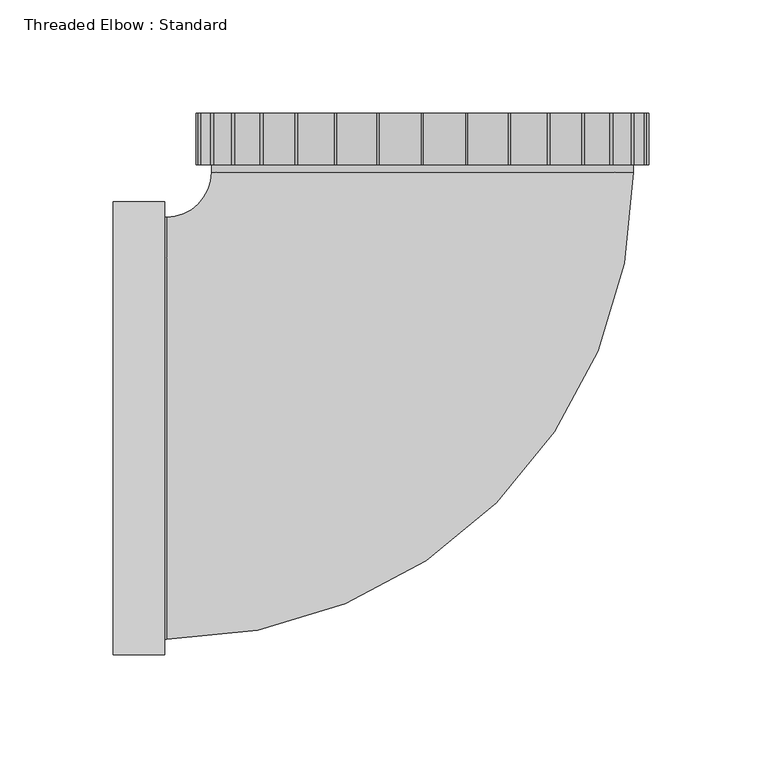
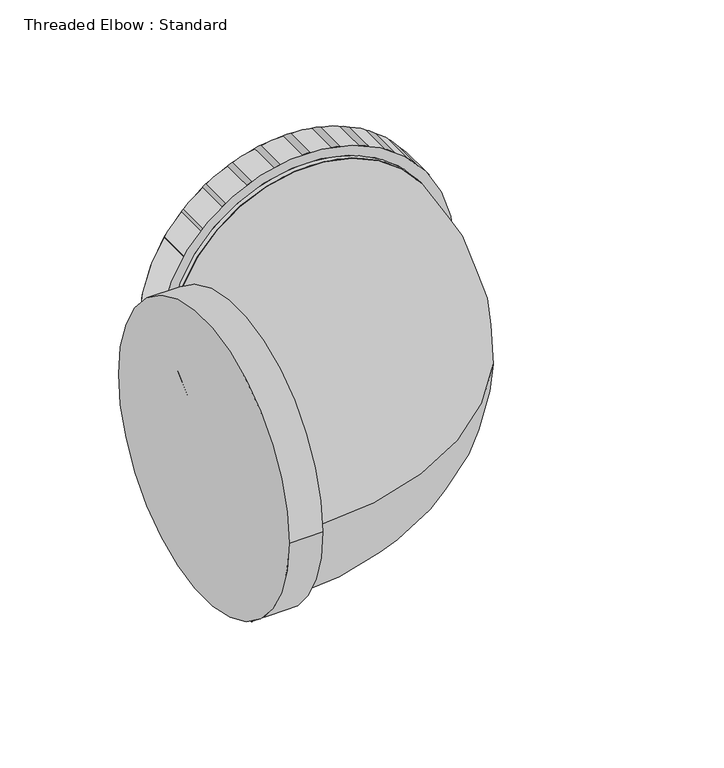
"""IFC4 building model written with IfcOpenShell, lengths in millimetres: pipe fitting geometry, Threaded Elbow : Standard."""

from ifc_helpers import new_model, si_unit, point, frame, origin, place, context, project, spatial, circle_curve, ellipse_curve, trimmed, source, transform, mapped, element, save
from ifc_brep_helpers import plane_surface, cylinder_surface, revolved_surface, advanced_brep


def threaded_elbow_standard_ebb12860(model_context):
    return source(origin(), model_context, "Body", "AdvancedBrep", [
        advanced_brep(
        [(99.9271719, 116.2685, 0.0), (-99.9271719, 116.2685, 0.0), (-93.1545, 116.2685, 0.0), (93.1545, 116.2685, 0.0), (99.9271719, 139.0213437, 0.0), (-99.9271719, 139.0213437, 0.0), (93.1545, 112.9863437, 0.0), (-93.1545, 112.9863437, 0.0)],
        [
            (0, 1, circle_curve(frame((0.0, 116.2685, 0.0), z_axis=(0.0, -1.0, 0.0), x_axis=(-1.0, 0.0, 0.0)), 99.9271719)),
            (1, 0, circle_curve(frame((0.0, 116.2685, 0.0), z_axis=(0.0, -1.0, 0.0), x_axis=(-1.0, 0.0, 0.0)), 99.9271719)),
            (2, 3, circle_curve(frame((0.0, 116.2685, 0.0), z_axis=(0.0, 1.0, 0.0), x_axis=(-1.0, 0.0, 0.0)), 93.1545)),
            (3, 2, circle_curve(frame((0.0, 116.2685, 0.0), z_axis=(0.0, 1.0, 0.0), x_axis=(-1.0, 0.0, 0.0)), 93.1545)),
            (4, 5, circle_curve(frame((0.0, 139.0213437, 0.0), z_axis=(0.0, 1.0, 0.0), x_axis=(-1.0, 0.0, 0.0)), 99.9271719)),
            (5, 4, circle_curve(frame((0.0, 139.0213437, 0.0), z_axis=(0.0, 1.0, 0.0), x_axis=(-1.0, 0.0, 0.0)), 99.9271719)),
            (0, 4),
            (5, 1),
            (6, 7, circle_curve(frame((0.0, 112.9863437, 0.0), z_axis=(0.0, -1.0, 0.0), x_axis=(-1.0, 0.0, 0.0)), 93.1545)),
            (7, 6, circle_curve(frame((0.0, 112.9863437, 0.0), z_axis=(0.0, -1.0, 0.0), x_axis=(-1.0, 0.0, 0.0)), 93.1545)),
            (6, 3),
            (2, 7),
        ],
        [
            plane_surface(frame((0.0, 116.2685, 0.0), z_axis=(0.0, -1.0, 0.0), x_axis=(0.0, 0.0, 1.0))),
            plane_surface(frame((0.0, 139.0213437, 0.0), z_axis=(0.0, 1.0, 0.0), x_axis=(0.0, 0.0, 1.0))),
            cylinder_surface(frame((0.0, 116.2685, 0.0), z_axis=(0.0, -1.0, 0.0), x_axis=(-1.0, 0.0, 0.0)), 99.9271719),
            plane_surface(frame((0.0, 112.9863437, 0.0), z_axis=(0.0, -1.0, 0.0), x_axis=(0.0, 0.0, 1.0))),
            cylinder_surface(frame((0.0, 112.9863437, 0.0), z_axis=(0.0, -1.0, 0.0), x_axis=(-1.0, 0.0, 0.0)), 93.1545),
        ],
        [
            (0, [[1, 2], [3, 4]]),
            (1, [[5, 6]]),
            (2, [[-1, 7, -6, 8]]),
            (2, [[-2, -8, -5, -7]]),
            (3, [[9, 10]]),
            (4, [[-9, 11, -3, 12]]),
            (4, [[-10, -12, -4, -11]]),
        ],
    ),
        advanced_brep(
        [(-113.7800937, 99.9271719, 0.0), (-113.7800937, -99.9271719, 0.0), (-113.7800937, -93.1545, 0.0), (-113.7800937, 93.1545, 0.0), (-136.5329375, 99.9271719, 0.0), (-136.5329375, -99.9271719, 0.0), (-112.9863437, 93.1545, 0.0), (-112.9863437, -93.1545, 0.0)],
        [
            (0, 1, circle_curve(frame((-113.7800937, 0.0, 0.0), z_axis=(1.0, 0.0, 0.0), x_axis=(0.0, -1.0, 0.0)), 99.9271719)),
            (1, 0, circle_curve(frame((-113.7800937, 0.0, 0.0), z_axis=(1.0, 0.0, 0.0), x_axis=(0.0, -1.0, 0.0)), 99.9271719)),
            (2, 3, circle_curve(frame((-113.7800937, 0.0, 0.0), z_axis=(-1.0, 0.0, 0.0), x_axis=(0.0, -1.0, 0.0)), 93.1545)),
            (3, 2, circle_curve(frame((-113.7800937, 0.0, 0.0), z_axis=(-1.0, 0.0, 0.0), x_axis=(0.0, -1.0, 0.0)), 93.1545)),
            (4, 5, circle_curve(frame((-136.5329375, 0.0, 0.0), z_axis=(-1.0, 0.0, 0.0), x_axis=(0.0, -1.0, 0.0)), 99.9271719)),
            (5, 4, circle_curve(frame((-136.5329375, 0.0, 0.0), z_axis=(-1.0, 0.0, 0.0), x_axis=(0.0, -1.0, 0.0)), 99.9271719)),
            (0, 4),
            (5, 1),
            (6, 7, circle_curve(frame((-112.9863437, 0.0, 0.0), z_axis=(1.0, 0.0, 0.0), x_axis=(0.0, -1.0, 0.0)), 93.1545)),
            (7, 6, circle_curve(frame((-112.9863437, 0.0, 0.0), z_axis=(1.0, 0.0, 0.0), x_axis=(0.0, -1.0, 0.0)), 93.1545)),
            (6, 3),
            (2, 7),
        ],
        [
            plane_surface(frame((-113.7800937, 0.0, 0.0), z_axis=(1.0, 0.0, 0.0), x_axis=(0.0, 0.0, 1.0))),
            plane_surface(frame((-136.5329375, 0.0, 0.0), z_axis=(-1.0, 0.0, 0.0), x_axis=(0.0, 0.0, 1.0))),
            cylinder_surface(frame((-113.7800937, 0.0, 0.0), z_axis=(1.0, 0.0, 0.0), x_axis=(0.0, -1.0, 0.0)), 99.9271719),
            plane_surface(frame((-112.9863437, 0.0, 0.0), z_axis=(1.0, 0.0, 0.0), x_axis=(0.0, 0.0, 1.0))),
            cylinder_surface(frame((-112.9863437, 0.0, 0.0), z_axis=(1.0, 0.0, 0.0), x_axis=(0.0, -1.0, 0.0)), 93.1545),
        ],
        [
            (0, [[1, 2], [3, 4]]),
            (1, [[5, 6]]),
            (2, [[-1, 7, -6, 8]]),
            (2, [[-2, -8, -5, -7]]),
            (3, [[9, 10]]),
            (4, [[-9, 11, -3, 12]]),
            (4, [[-10, -12, -4, -11]]),
        ],
    ),
        advanced_brep(
        [(-99.9271719, 139.0213437, 0.0), (99.9271719, 139.0213437, 0.0), (-99.9271719, 116.2685, 0.0), (99.9271719, 116.2685, 0.0), (-93.1545, 116.2685, 0.0), (93.1545, 116.2685, 0.0), (93.1545, 112.9863437, 0.0), (-93.1545, 112.9863437, 0.0)],
        [
            (0, 1, circle_curve(frame((0.0, 139.0213437, 0.0), z_axis=(0.0, 1.0, 0.0), x_axis=(1.0, 0.0, 0.0)), 99.9271719)),
            (1, 0, circle_curve(frame((0.0, 139.0213437, 0.0), z_axis=(0.0, 1.0, 0.0), x_axis=(1.0, 0.0, 0.0)), 99.9271719)),
            (2, 3, circle_curve(frame((0.0, 116.2685, 0.0), z_axis=(0.0, -1.0, 0.0), x_axis=(1.0, 0.0, 0.0)), 99.9271719)),
            (3, 2, circle_curve(frame((0.0, 116.2685, 0.0), z_axis=(0.0, -1.0, 0.0), x_axis=(1.0, 0.0, 0.0)), 99.9271719)),
            (4, 5, circle_curve(frame((0.0, 116.2685, 0.0), z_axis=(0.0, 1.0, 0.0), x_axis=(-1.0, 0.0, 0.0)), 93.1545)),
            (5, 4, circle_curve(frame((0.0, 116.2685, 0.0), z_axis=(0.0, 1.0, 0.0), x_axis=(-1.0, 0.0, 0.0)), 93.1545)),
            (0, 2),
            (3, 1),
            (6, 7, circle_curve(frame((0.0, 112.9863437, 0.0), z_axis=(0.0, -1.0, 0.0), x_axis=(-1.0, 0.0, 0.0)), 93.1545)),
            (7, 6, circle_curve(frame((0.0, 112.9863437, 0.0), z_axis=(0.0, -1.0, 0.0), x_axis=(-1.0, 0.0, 0.0)), 93.1545)),
            (6, 5),
            (4, 7),
        ],
        [
            plane_surface(frame((0.0, 139.0213437, 0.0), z_axis=(0.0, 1.0, 0.0), x_axis=(0.0, 0.0, 1.0))),
            plane_surface(frame((0.0, 116.2685, 0.0), z_axis=(0.0, -1.0, 0.0), x_axis=(0.0, 0.0, 1.0))),
            cylinder_surface(frame((0.0, 139.0213437, 0.0), z_axis=(0.0, 1.0, 0.0), x_axis=(1.0, 0.0, 0.0)), 99.9271719),
            plane_surface(frame((0.0, 112.9863437, 0.0), z_axis=(0.0, -1.0, 0.0), x_axis=(0.0, 0.0, 1.0))),
            cylinder_surface(frame((0.0, 112.9863437, 0.0), z_axis=(0.0, -1.0, 0.0), x_axis=(-1.0, 0.0, 0.0)), 93.1545),
        ],
        [
            (0, [[1, 2]]),
            (1, [[3, 4], [5, 6]]),
            (2, [[-1, 7, -4, 8]]),
            (2, [[-2, -8, -3, -7]]),
            (3, [[9, 10]]),
            (4, [[-9, 11, -5, 12]]),
            (4, [[-10, -12, -6, -11]]),
        ],
    ),
        advanced_brep(
        [(-113.7800937, -99.9271719, 0.0), (-113.7800937, 99.9271719, 0.0), (-113.7800937, -93.1545, 0.0), (-113.7800937, 93.1545, 0.0), (-136.5329375, -99.9271719, 0.0), (-136.5329375, 99.9271719, 0.0), (-112.9863437, 93.1545, 0.0), (-112.9863437, -93.1545, 0.0)],
        [
            (0, 1, circle_curve(frame((-113.7800937, 0.0, 0.0), z_axis=(1.0, 0.0, 0.0), x_axis=(0.0, 1.0, 0.0)), 99.9271719)),
            (1, 0, circle_curve(frame((-113.7800937, 0.0, 0.0), z_axis=(1.0, 0.0, 0.0), x_axis=(0.0, 1.0, 0.0)), 99.9271719)),
            (2, 3, circle_curve(frame((-113.7800937, 0.0, 0.0), z_axis=(-1.0, 0.0, 0.0), x_axis=(0.0, -1.0, 0.0)), 93.1545)),
            (3, 2, circle_curve(frame((-113.7800937, 0.0, 0.0), z_axis=(-1.0, 0.0, 0.0), x_axis=(0.0, -1.0, 0.0)), 93.1545)),
            (4, 5, circle_curve(frame((-136.5329375, 0.0, 0.0), z_axis=(-1.0, 0.0, 0.0), x_axis=(0.0, 1.0, 0.0)), 99.9271719)),
            (5, 4, circle_curve(frame((-136.5329375, 0.0, 0.0), z_axis=(-1.0, 0.0, 0.0), x_axis=(0.0, 1.0, 0.0)), 99.9271719)),
            (0, 4),
            (5, 1),
            (6, 7, circle_curve(frame((-112.9863437, 0.0, 0.0), z_axis=(1.0, 0.0, 0.0), x_axis=(0.0, -1.0, 0.0)), 93.1545)),
            (7, 6, circle_curve(frame((-112.9863437, 0.0, 0.0), z_axis=(1.0, 0.0, 0.0), x_axis=(0.0, -1.0, 0.0)), 93.1545)),
            (6, 3),
            (2, 7),
        ],
        [
            plane_surface(frame((-113.7800937, 99.9271719, 0.0), z_axis=(1.0, 0.0, 0.0), x_axis=(0.0, 0.0, 1.0))),
            plane_surface(frame((-136.5329375, 99.9271719, 0.0), z_axis=(-1.0, 0.0, 0.0), x_axis=(0.0, 0.0, -1.0))),
            cylinder_surface(frame((-136.5329375, 0.0, 0.0), z_axis=(1.0, 0.0, 0.0), x_axis=(0.0, 1.0, 0.0)), 99.9271719),
            plane_surface(frame((-112.9863437, 0.0, 0.0), z_axis=(1.0, 0.0, 0.0), x_axis=(0.0, 0.0, 1.0))),
            cylinder_surface(frame((-112.9863437, 0.0, 0.0), z_axis=(1.0, 0.0, 0.0), x_axis=(0.0, -1.0, 0.0)), 93.1545),
        ],
        [
            (0, [[1, 2], [3, 4]]),
            (1, [[5, 6]]),
            (2, [[-1, 7, -6, 8]]),
            (2, [[-2, -8, -5, -7]]),
            (3, [[9, 10]]),
            (4, [[-9, 11, -3, 12]]),
            (4, [[-10, -12, -4, -11]]),
        ],
    ),
        advanced_brep(
        [(93.1545, 112.9863437, 0.0), (-93.1545, 112.9863437, 0.0), (-112.9863437, -93.1545, 0.0), (-112.9863437, 93.1545, 0.0)],
        [
            (0, 1, circle_curve(frame((0.0, 112.9863437, 0.0), z_axis=(0.0, 1.0, 0.0), x_axis=(-1.0, 0.0, 0.0)), 93.1545)),
            (1, 0, circle_curve(frame((0.0, 112.9863437, 0.0), z_axis=(0.0, 1.0, 0.0), x_axis=(-1.0, 0.0, 0.0)), 93.1545)),
            (2, 3, circle_curve(frame((-112.9863437, 0.0, 0.0), z_axis=(-1.0, 0.0, 0.0), x_axis=(0.0, 1.0, 0.0)), 93.1545)),
            (3, 2, circle_curve(frame((-112.9863437, 0.0, 0.0), z_axis=(-1.0, 0.0, 0.0), x_axis=(0.0, 1.0, 0.0)), 93.1545)),
            (3, 1, circle_curve(frame((-112.9863437, 112.9863437, 0.0), z_axis=(0.0, 0.0, 1.0), x_axis=(1.0, 0.0, 0.0)), 19.8318437)),
            (0, 2, circle_curve(frame((-112.9863437, 112.9863437, 0.0), z_axis=(0.0, 0.0, -1.0), x_axis=(1.0, 0.0, 0.0)), 206.1408437)),
        ],
        [
            plane_surface(frame((0.0, 112.9863437, 0.0), z_axis=(0.0, 1.0, 0.0), x_axis=(0.0, 0.0, -1.0))),
            plane_surface(frame((-112.9863437, 0.0, 0.0), z_axis=(-1.0, 0.0, 0.0), x_axis=(0.0, 0.0, -1.0))),
            revolved_surface(trimmed(ellipse_curve(frame((0.0, 112.9863437, 0.0), z_axis=(0.0, -1.0, 0.0), x_axis=(-1.0, 0.0, 0.0)), 93.1545, 93.1545), [point((-93.1545, 112.9863437, 0.0))], [point((93.1545, 112.9863437, 0.0))], True, "CARTESIAN"), (-112.9863437, 112.9863437, 0.0), (0.0, 0.0, 1.0)),
            revolved_surface(trimmed(ellipse_curve(frame((0.0, 112.9863437, 0.0), z_axis=(0.0, -1.0, 0.0), x_axis=(-1.0, 0.0, 0.0)), 93.1545, 93.1545), [point((93.1545, 112.9863437, 0.0))], [point((-93.1545, 112.9863437, 0.0))], True, "CARTESIAN"), (-112.9863437, 112.9863437, 0.0), (0.0, 0.0, 1.0)),
        ],
        [
            (0, [[1, 2]]),
            (1, [[3, 4]]),
            (2, [[-4, 5, -1, 6]]),
            (3, [[-3, -6, -2, -5]]),
        ],
    ),
        advanced_brep(
        [(93.1545, 112.9863437, 0.0), (-93.1545, 112.9863437, 0.0), (-112.9863437, -93.1545, 0.0), (-112.9863437, 93.1545, 0.0)],
        [
            (0, 1, circle_curve(frame((0.0, 112.9863437, 0.0), z_axis=(0.0, 1.0, 0.0), x_axis=(-1.0, 0.0, 0.0)), 93.1545)),
            (1, 0, circle_curve(frame((0.0, 112.9863437, 0.0), z_axis=(0.0, 1.0, 0.0), x_axis=(-1.0, 0.0, 0.0)), 93.1545)),
            (2, 3, circle_curve(frame((-112.9863437, 0.0, 0.0), z_axis=(-1.0, 0.0, 0.0), x_axis=(0.0, 1.0, 0.0)), 93.1545)),
            (3, 2, circle_curve(frame((-112.9863437, 0.0, 0.0), z_axis=(-1.0, 0.0, 0.0), x_axis=(0.0, 1.0, 0.0)), 93.1545)),
            (3, 1, circle_curve(frame((-112.9863437, 112.9863437, 0.0), z_axis=(0.0, 0.0, 1.0), x_axis=(1.0, 0.0, 0.0)), 19.8318437)),
            (0, 2, circle_curve(frame((-112.9863437, 112.9863437, 0.0), z_axis=(0.0, 0.0, -1.0), x_axis=(1.0, 0.0, 0.0)), 206.1408437)),
        ],
        [
            plane_surface(frame((0.0, 112.9863437, 0.0), z_axis=(0.0, 1.0, 0.0), x_axis=(0.0, 0.0, -1.0))),
            plane_surface(frame((-112.9863437, 0.0, 0.0), z_axis=(-1.0, 0.0, 0.0), x_axis=(0.0, 0.0, -1.0))),
            revolved_surface(trimmed(ellipse_curve(frame((0.0, 112.9863437, 0.0), z_axis=(0.0, -1.0, 0.0), x_axis=(-1.0, 0.0, 0.0)), 93.1545, 93.1545), [point((-93.1545, 112.9863437, 0.0))], [point((93.1545, 112.9863437, 0.0))], True, "CARTESIAN"), (-112.9863437, 112.9863437, 0.0), (0.0, 0.0, 1.0)),
            revolved_surface(trimmed(ellipse_curve(frame((0.0, 112.9863437, 0.0), z_axis=(0.0, -1.0, 0.0), x_axis=(-1.0, 0.0, 0.0)), 93.1545, 93.1545), [point((93.1545, 112.9863437, 0.0))], [point((-93.1545, 112.9863437, 0.0))], True, "CARTESIAN"), (-112.9863437, 112.9863437, 0.0), (0.0, 0.0, 1.0)),
        ],
        [
            (0, [[1, 2]]),
            (1, [[3, 4]]),
            (2, [[-4, 5, -1, 6]]),
            (3, [[-3, -6, -2, -5]]),
        ],
    ),
    ])


if __name__ == "__main__":
    model = new_model("IFC4")
    model_context = context("Model", 3, world=origin())
    ifc_project = project(units=[si_unit("LENGTHUNIT", "METRE", prefix="MILLI")], contexts=[model_context])
    site = spatial("IfcSite", under=ifc_project)
    building = spatial("IfcBuilding", under=site)
    placement = place(None, origin())
    threaded_elbow_standard_shape = threaded_elbow_standard_ebb12860(model_context)
    element("IfcPipeFitting", 1, ObjectType="Threaded Elbow : Standard", at=placement, inside=building, context=model_context, shape_type="MappedRepresentation", body=[
        mapped(threaded_elbow_standard_shape, transform((0.0, 0.0, 0.0), x_axis=(1.0, 0.0, 0.0), y_axis=(0.0, 1.0, 0.0), z_axis=(0.0, 0.0, 1.0))),
    ])
    save(model, "model.ifc")
